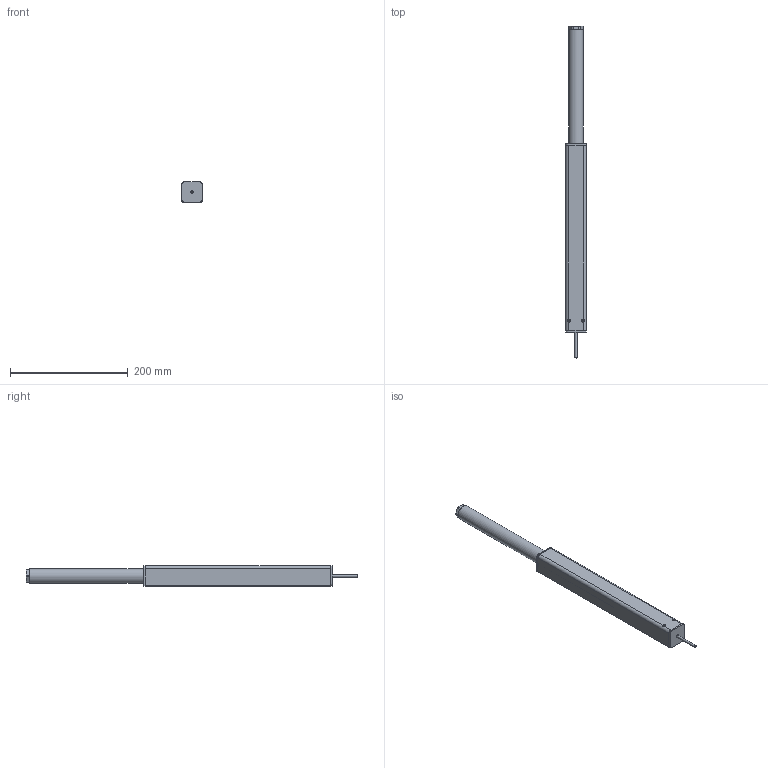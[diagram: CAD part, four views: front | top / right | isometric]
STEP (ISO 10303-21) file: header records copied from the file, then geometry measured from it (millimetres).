
FILE_DESCRIPTION(/* description */ ('Unknown'),/* implementation_level */ '2;1');
FILE_NAME(/* name */ '106.00002 Lineareinheit LA 1420_ausgefahren',/* time_stamp */ '2017-08-23T16:32:55+02:00',/* author */ ('Unknown'),/* organization */ ('Unknown'),/* preprocessor_version */ 'ST-DEVELOPER v16.7',/* originating_system */ 'DEX',/* authorisation */ $);
FILE_SCHEMA (('AUTOMOTIVE_DESIGN {1 0 10303 214 3 1 1}'));
Products named in the file (9): 106.00002; 119.00002; 142.00014; 115.00001; 142.00011; 122.00018; 125.00051; 123.00002; 113.00002_70mm
Assembly tree (9 placements, depth 2):
  106.00002
    119.00002
    142.00014  x2
    115.00001
    142.00011
    122.00018
    125.00051
    123.00002
    113.00002_70mm
Bounding box: 35 x 563.5 x 35 mm (x, y, z)
Volume: 233132.4 mm3; surface area: 160013 mm2
Topology: 8 solids, 8 shells, 776 faces, 1818 edges, 1082 vertices
Faces by surface type: cylinder 273, bspline 224, plane 204, cone 36, torus 27, sphere 12
Full cylindrical faces by diameter (mm): 2.2 x1, 4 x7, 4.134 x4, 5 x1, 6.647 x1, 8.376 x1, 17.3 x1, 19 x1, 20.8 x3, 21 x1, 25 x1, 28.3 x1, 30.4 x1, 30.63 x1
Entity records: 74513 total; most frequent: CARTESIAN_POINT 58862, ORIENTED_EDGE 3422, DIRECTION 2541, EDGE_CURVE 1711, VERTEX_POINT 1037, AXIS2_PLACEMENT_3D 983, EDGE_LOOP 858, FACE_BOUND 858
